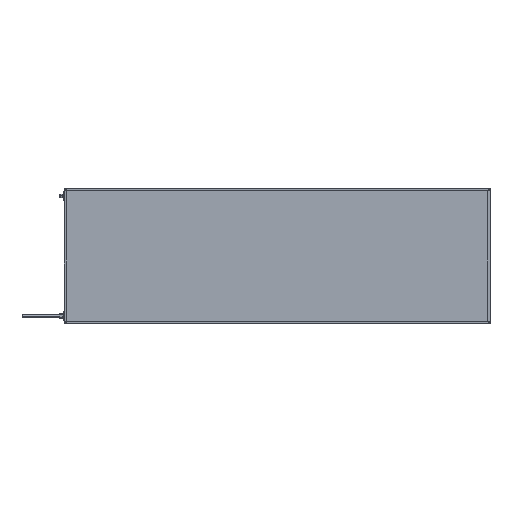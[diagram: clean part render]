
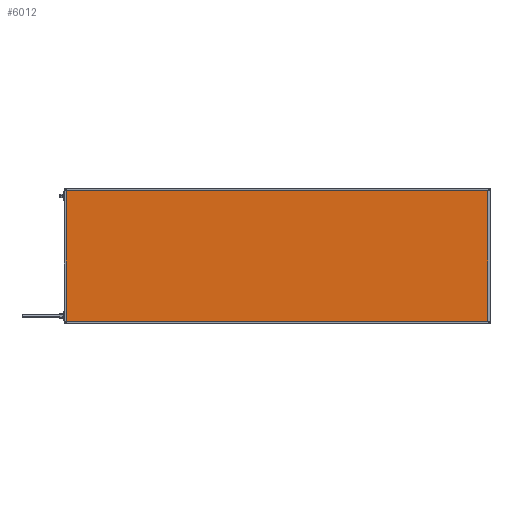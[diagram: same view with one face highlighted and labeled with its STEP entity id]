
A CAD part, top view. The second image highlights one B-rep face of the part: STEP entity #6012.
In plain terms, the highlighted planar face has unit normal (0, 0, 1).
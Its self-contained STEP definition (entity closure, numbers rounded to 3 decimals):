
#14 = AXIS2_PLACEMENT_3D ( 'NONE', #5617, #16314, #18029 ) ;
#1236 = EDGE_CURVE ( 'NONE', #11592, #11209, #10644, .T. ) ;
#1272 = VECTOR ( 'NONE', #16662, 1000. ) ;
#1759 = ORIENTED_EDGE ( 'NONE', *, *, #1236, .T. ) ;
#1886 = DIRECTION ( 'NONE',  ( 0., 1., 0. ) ) ;
#2649 = ORIENTED_EDGE ( 'NONE', *, *, #3298, .T. ) ;
#2826 = VECTOR ( 'NONE', #11733, 1000. ) ;
#3131 = LINE ( 'NONE', #17172, #7531 ) ;
#3298 = EDGE_CURVE ( 'NONE', #11209, #6461, #3131, .T. ) ;
#4445 = EDGE_LOOP ( 'NONE', ( #9172, #13020, #1759, #2649 ) ) ;
#5243 = CARTESIAN_POINT ( 'NONE',  ( 1596., 4., 41.85 ) ) ;
#5259 = LINE ( 'NONE', #16394, #1272 ) ;
#5261 = PLANE ( 'NONE',  #14 ) ;
#5617 = CARTESIAN_POINT ( 'NONE',  ( 0., 0., 41.85 ) ) ;
#6012 = ADVANCED_FACE ( 'NONE', ( #17763 ), #5261, .F. ) ;
#6461 = VERTEX_POINT ( 'NONE', #5243 ) ;
#7401 = CARTESIAN_POINT ( 'NONE',  ( 1596., 496., 41.85 ) ) ;
#7451 = LINE ( 'NONE', #13013, #8393 ) ;
#7531 = VECTOR ( 'NONE', #11349, 1000. ) ;
#8393 = VECTOR ( 'NONE', #1886, 1000. ) ;
#9172 = ORIENTED_EDGE ( 'NONE', *, *, #17644, .T. ) ;
#9233 = EDGE_CURVE ( 'NONE', #16769, #11592, #5259, .T. ) ;
#10644 = LINE ( 'NONE', #13371, #2826 ) ;
#10763 = CARTESIAN_POINT ( 'NONE',  ( 4., 496., 41.85 ) ) ;
#11209 = VERTEX_POINT ( 'NONE', #13678 ) ;
#11349 = DIRECTION ( 'NONE',  ( 1., 0., 0. ) ) ;
#11592 = VERTEX_POINT ( 'NONE', #10763 ) ;
#11733 = DIRECTION ( 'NONE',  ( 0., -1., 0. ) ) ;
#13013 = CARTESIAN_POINT ( 'NONE',  ( 1596., 0., 41.85 ) ) ;
#13020 = ORIENTED_EDGE ( 'NONE', *, *, #9233, .T. ) ;
#13371 = CARTESIAN_POINT ( 'NONE',  ( 4., 0., 41.85 ) ) ;
#13678 = CARTESIAN_POINT ( 'NONE',  ( 4., 4., 41.85 ) ) ;
#16314 = DIRECTION ( 'NONE',  ( 0., 0., -1. ) ) ;
#16394 = CARTESIAN_POINT ( 'NONE',  ( 0., 496., 41.85 ) ) ;
#16662 = DIRECTION ( 'NONE',  ( -1., 0., 0. ) ) ;
#16769 = VERTEX_POINT ( 'NONE', #7401 ) ;
#17172 = CARTESIAN_POINT ( 'NONE',  ( 0., 4., 41.85 ) ) ;
#17644 = EDGE_CURVE ( 'NONE', #6461, #16769, #7451, .T. ) ;
#17763 = FACE_OUTER_BOUND ( 'NONE', #4445, .T. ) ;
#18029 = DIRECTION ( 'NONE',  ( -1., 0., 0. ) ) ;
